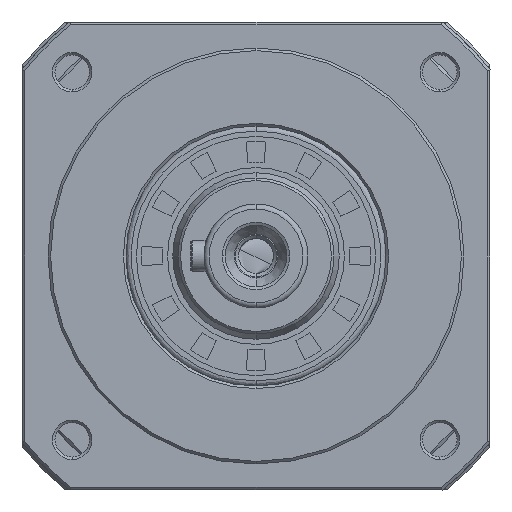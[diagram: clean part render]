
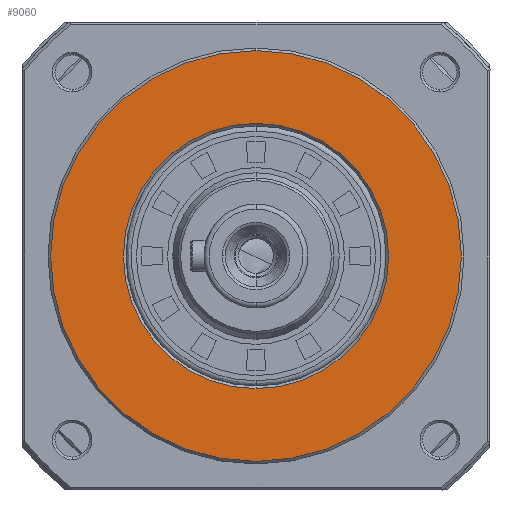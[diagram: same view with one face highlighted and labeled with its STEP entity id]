
A CAD part, left-side view. The second image highlights one B-rep face of the part: STEP entity #9060.
In plain terms, the highlighted planar face has unit normal (-1, 0, 0).
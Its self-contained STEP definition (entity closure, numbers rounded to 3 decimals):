
#909 = FACE_OUTER_BOUND ( 'NONE', #93591, .T. ) ;
#3127 = DIRECTION ( 'NONE',  ( -1., 0., 0. ) ) ;
#5360 = DIRECTION ( 'NONE',  ( 0., 0., -1. ) ) ;
#7129 = DIRECTION ( 'NONE',  ( 0., 0., 1. ) ) ;
#9060 = ADVANCED_FACE ( 'NONE', ( #91100, #909 ), #61007, .F. ) ;
#10183 = CIRCLE ( 'NONE', #16381, 39.5 ) ;
#12053 = DIRECTION ( 'NONE',  ( -1., 0., 0. ) ) ;
#14668 = VERTEX_POINT ( 'NONE', #64557 ) ;
#16381 = AXIS2_PLACEMENT_3D ( 'NONE', #65863, #21011, #53656 ) ;
#21011 = DIRECTION ( 'NONE',  ( -1., 0., 0. ) ) ;
#21253 = EDGE_CURVE ( 'NONE', #14668, #95234, #90112, .T. ) ;
#29321 = CARTESIAN_POINT ( 'NONE',  ( 0., 0., -25.5 ) ) ;
#32014 = CARTESIAN_POINT ( 'NONE',  ( 0., 0., 39.5 ) ) ;
#33338 = CARTESIAN_POINT ( 'NONE',  ( 0., 0., -39.5 ) ) ;
#37244 = EDGE_LOOP ( 'NONE', ( #66797, #56036 ) ) ;
#37894 = DIRECTION ( 'NONE',  ( -1., 0., 0. ) ) ;
#46222 = VERTEX_POINT ( 'NONE', #32014 ) ;
#47421 = AXIS2_PLACEMENT_3D ( 'NONE', #77732, #3127, #55473 ) ;
#48838 = ORIENTED_EDGE ( 'NONE', *, *, #95657, .T. ) ;
#50165 = DIRECTION ( 'NONE',  ( 1., 0., 0. ) ) ;
#53656 = DIRECTION ( 'NONE',  ( 0., 0., -1. ) ) ;
#55473 = DIRECTION ( 'NONE',  ( 0., 0., 1. ) ) ;
#56036 = ORIENTED_EDGE ( 'NONE', *, *, #65753, .F. ) ;
#61007 = PLANE ( 'NONE',  #89415 ) ;
#63411 = CIRCLE ( 'NONE', #87971, 39.5 ) ;
#64465 = DIRECTION ( 'NONE',  ( 0., 0., -1. ) ) ;
#64557 = CARTESIAN_POINT ( 'NONE',  ( 0., 0., 25.5 ) ) ;
#65753 = EDGE_CURVE ( 'NONE', #95234, #14668, #74301, .T. ) ;
#65863 = CARTESIAN_POINT ( 'NONE',  ( 0., 0., 0. ) ) ;
#66797 = ORIENTED_EDGE ( 'NONE', *, *, #21253, .F. ) ;
#70478 = EDGE_CURVE ( 'NONE', #93679, #46222, #63411, .T. ) ;
#70508 = CARTESIAN_POINT ( 'NONE',  ( 0., -39.974, 39.974 ) ) ;
#71980 = ORIENTED_EDGE ( 'NONE', *, *, #70478, .T. ) ;
#74301 = CIRCLE ( 'NONE', #47421, 25.5 ) ;
#75529 = CARTESIAN_POINT ( 'NONE',  ( 0., 0., 0. ) ) ;
#77732 = CARTESIAN_POINT ( 'NONE',  ( 0., 0., 0. ) ) ;
#79499 = CARTESIAN_POINT ( 'NONE',  ( 0., 0., 0. ) ) ;
#83146 = AXIS2_PLACEMENT_3D ( 'NONE', #75529, #37894, #7129 ) ;
#87971 = AXIS2_PLACEMENT_3D ( 'NONE', #79499, #12053, #64465 ) ;
#89415 = AXIS2_PLACEMENT_3D ( 'NONE', #70508, #50165, #5360 ) ;
#90112 = CIRCLE ( 'NONE', #83146, 25.5 ) ;
#91100 = FACE_BOUND ( 'NONE', #37244, .T. ) ;
#93591 = EDGE_LOOP ( 'NONE', ( #71980, #48838 ) ) ;
#93679 = VERTEX_POINT ( 'NONE', #33338 ) ;
#95234 = VERTEX_POINT ( 'NONE', #29321 ) ;
#95657 = EDGE_CURVE ( 'NONE', #46222, #93679, #10183, .T. ) ;
